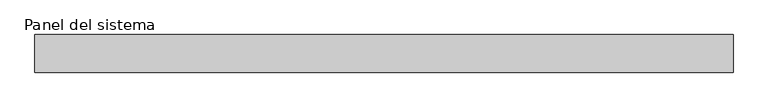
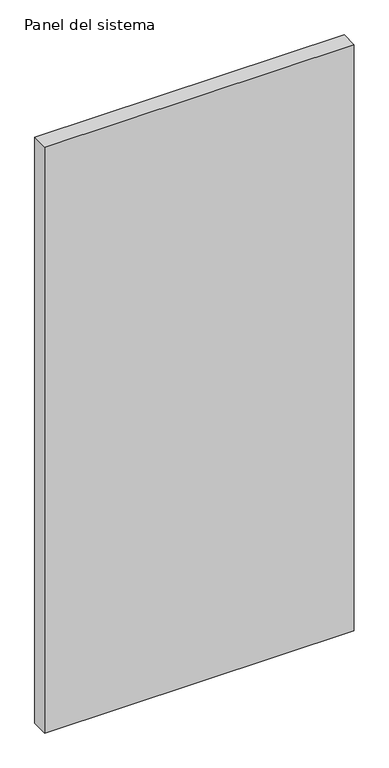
"""IFC4 building model written with IfcOpenShell, lengths in millimetres: plate geometry, Panel del sistema : Hiansa Panel - Fachada Panel SEMILISO HFM Vert - 60mm."""

from ifc_helpers import new_model, si_unit, origin, origin_with_axes, place, context, project, spatial, polyline, outline, extrude, source, transform, mapped, element, save


def panel_del_sistema_00c51783(model_context):
    return source(origin(), model_context, "Body", "SweptSolid", [
        extrude(outline(polyline([(550.0000002, -60.0), (-550.0000002, -60.0), (-550.0000002, 0.0), (550.0000002, 0.0), (550.0000002, -60.0)])), origin_with_axes(), (0.0, 0.0, 1.0), 2200.0),
    ])


if __name__ == "__main__":
    model = new_model("IFC4")
    model_context = context("Model", 3, world=origin())
    ifc_project = project(units=[si_unit("LENGTHUNIT", "METRE", prefix="MILLI")], contexts=[model_context])
    site = spatial("IfcSite", under=ifc_project)
    building = spatial("IfcBuilding", under=site)
    placement = place(None, origin())
    panel_del_sistema_shape = panel_del_sistema_00c51783(model_context)
    element("IfcPlate", 1, ObjectType="Panel del sistema : Hiansa Panel - Fachada Panel SEMILISO HFM Vert - 60mm", at=placement, inside=building, context=model_context, shape_type="MappedRepresentation", body=[
        mapped(panel_del_sistema_shape, transform((0.0, 0.0, 0.0), x_axis=(1.0, 0.0, 0.0), y_axis=(0.0, 1.0, 0.0), z_axis=(0.0, 0.0, 1.0))),
    ])
    save(model, "model.ifc")
